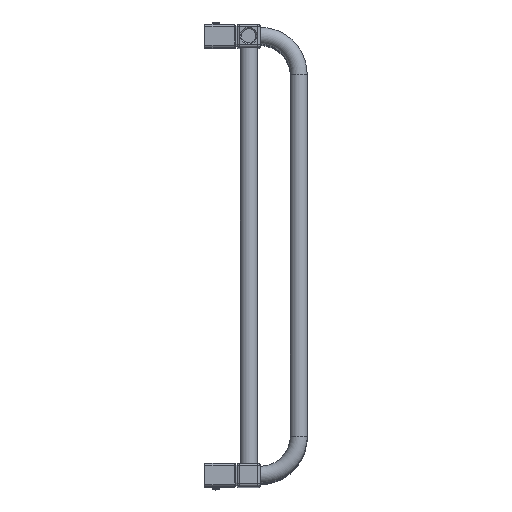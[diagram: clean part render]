
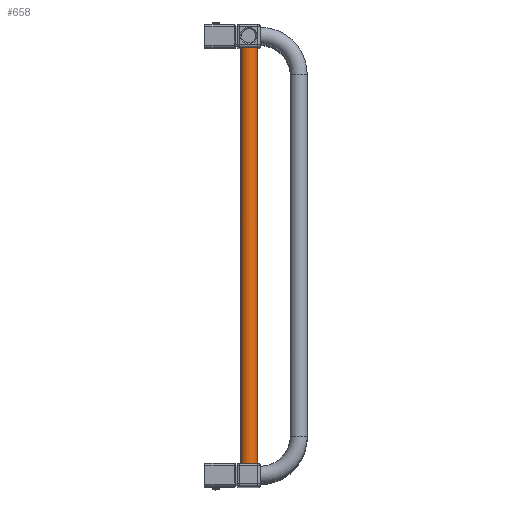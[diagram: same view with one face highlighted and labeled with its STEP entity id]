
A CAD part, top view. The second image highlights one B-rep face of the part: STEP entity #658.
In plain terms, the highlighted cylindrical face has radius 11 mm (diameter 22 mm), a full revolution.
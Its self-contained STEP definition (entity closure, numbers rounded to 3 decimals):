
#631=CARTESIAN_POINT('',(0.0,-270.0,910.));
#632=DIRECTION('',(0.0,1.0,0.0));
#633=DIRECTION('',(-1.0,0.0,0.0));
#634=AXIS2_PLACEMENT_3D('',#631,#632,#633);
#635=CYLINDRICAL_SURFACE('',#634,11.);
#636=CARTESIAN_POINT('',(11.,-270.0,910.));
#637=VERTEX_POINT('',#636);
#638=CARTESIAN_POINT('',(0.0,-270.0,910.));
#639=DIRECTION('',(0.0,-1.0,0.0));
#640=DIRECTION('',(-1.0,0.0,0.0));
#641=AXIS2_PLACEMENT_3D('',#638,#639,#640);
#642=CIRCLE('',#641,11.);
#643=EDGE_CURVE('',#637,#637,#642,.T.);
#644=ORIENTED_EDGE('',*,*,#643,.F.);
#645=EDGE_LOOP('',(#644));
#646=FACE_OUTER_BOUND('',#645,.T.);
#647=CARTESIAN_POINT('',(11.,270.0,910.));
#648=VERTEX_POINT('',#647);
#649=CARTESIAN_POINT('',(0.0,270.0,910.));
#650=DIRECTION('',(0.0,1.0,0.0));
#651=DIRECTION('',(-1.0,0.0,0.0));
#652=AXIS2_PLACEMENT_3D('',#649,#650,#651);
#653=CIRCLE('',#652,11.);
#654=EDGE_CURVE('',#648,#648,#653,.T.);
#655=ORIENTED_EDGE('',*,*,#654,.F.);
#656=EDGE_LOOP('',(#655));
#657=FACE_BOUND('',#656,.T.);
#658=ADVANCED_FACE('',(#646,#657),#635,.T.);
